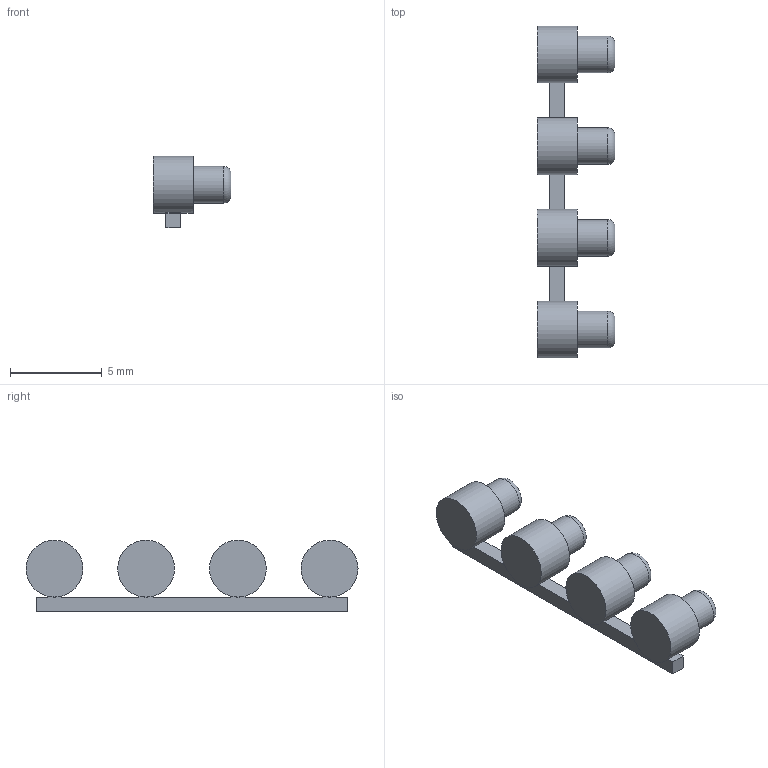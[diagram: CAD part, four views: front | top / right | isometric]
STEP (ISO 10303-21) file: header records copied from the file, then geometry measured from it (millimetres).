
FILE_DESCRIPTION(('Open CASCADE Model'),'2;1');
FILE_NAME('Open CASCADE Shape Model','2026-10-10T16:02:06',('Author'),( 'Open CASCADE'),'Open CASCADE STEP processor 8.0','build123d', 'Unknown');
FILE_SCHEMA(('AUTOMOTIVE_DESIGN { 1 0 10303 214 1 1 1 1 }'));
Length unit declared in the file: millimetre
Products named in the file (1): COMPOUND
Bounding box: 4.25 x 18.1 x 3.9 mm (x, y, z)
Volume: 102.3 mm3; surface area: 244 mm2
Topology: 1 solids, 1 shells, 42 faces, 104 edges, 68 vertices
Faces by surface type: plane 30, cylinder 8, torus 4
Full cylindrical faces by diameter (mm): 2 x4, 3.1 x4
Entity records: 2578 total; most frequent: CARTESIAN_POINT 463, DIRECTION 398, ORIENTED_EDGE 208, PCURVE 208, DEFINITIONAL_REPRESENTATION 208, LINE 200, VECTOR 200, EDGE_CURVE 104
